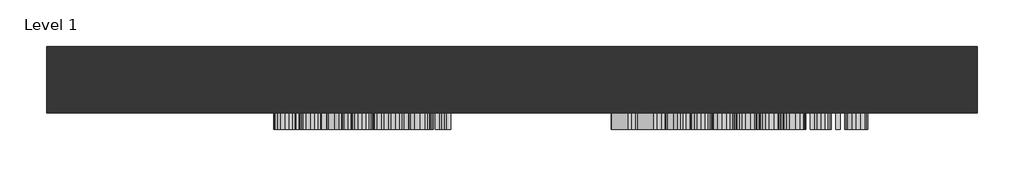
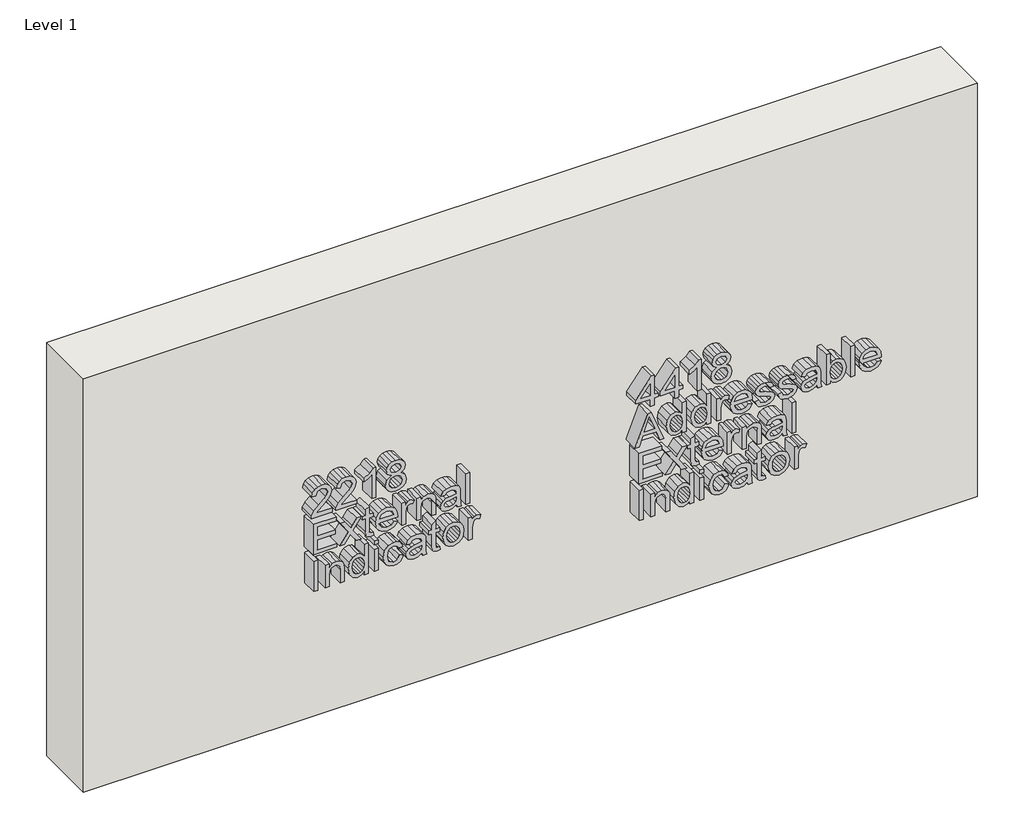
# One storey: 2 proxies, 1 wall.
"""IFC4 building model written with IfcOpenShell, lengths in millimetres."""

from ifc_helpers import new_model, si_unit, frame, origin, origin_with_axes, place, context, project, spatial, polyline, outline, extrude, element, save

model = new_model("IFC4")

# Units and contexts
model_context = context("Model", 3, world=origin())
ifc_project = project(units=[si_unit("LENGTHUNIT", "METRE", prefix="MILLI")], contexts=[model_context])

# Site, building, storey
site = spatial("IfcSite", under=ifc_project)
building = spatial("IfcBuilding", under=site)
storey = spatial("IfcBuildingStorey", under=building, Name="Level 1", Elevation=0.0)

# Proxies
placement = place(None, origin())
element("IfcBuildingElementProxy", 1, Name="150 mm Arial", ObjectType="150 mm Arial", at=placement, inside=storey, context=model_context, shape_type="SweptSolid", body=[
    extrude(outline(polyline([(710.2963304, -3772.746973), (710.2963304, -3822.0676858), (716.6852144, -3816.4023031), (728.7640066, -3801.9568034), (745.9686212, -3783.9673738), (758.2804053, -3776.5484203), (770.1875192, -3774.3166028), (781.13814, -3776.3859391), (790.1512488, -3782.5939477), (796.1845136, -3792.3520176), (798.1956018, -3805.0715376), (796.3868487, -3817.6990871), (790.9605892, -3827.4755511), (782.0885018, -3834.0575732), (769.9422646, -3837.1017967), (768.3726347, -3824.5447579), (781.0523008, -3819.2595199), (785.638563, -3805.3413178), (780.9419362, -3791.9872013), (769.4272298, -3786.8736416), (755.2024593, -3792.2937697), (734.2822365, -3813.9742819), (719.7263722, -3829.6951058), (706.3967813, -3837.3225259), (697.7392917, -3838.6714265), (697.7392917, -3772.746973), (710.2963304, -3772.746973)])), frame((0.0, 3097.8550077, 0.0), z_axis=(0.0, 1.0, 0.0), x_axis=(0.0, 0.0, 1.0)), (0.0, 0.0, 1.0), 50.0),
    extrude(outline(polyline([(710.2963304, -3695.8351105), (710.2963304, -3745.1558233), (716.6852144, -3739.4904406), (728.7640066, -3725.0449409), (745.9686212, -3707.0555114), (758.2804053, -3699.6365578), (770.1875192, -3697.4047404), (781.13814, -3699.4740766), (790.1512488, -3705.6820853), (796.1845136, -3715.4401552), (798.1956018, -3728.1596752), (796.3868487, -3740.7872247), (790.9605892, -3750.5636887), (782.0885018, -3757.1457107), (769.9422646, -3760.1899342), (768.3726347, -3747.6328954), (781.0523008, -3742.3476574), (785.638563, -3728.4294553), (780.9419362, -3715.0753389), (769.4272298, -3709.9617791), (755.2024593, -3715.3819072), (734.2822365, -3737.0624195), (719.7263722, -3752.7832434), (706.3967813, -3760.4106634), (697.7392917, -3761.7595641), (697.7392917, -3695.8351105), (710.2963304, -3695.8351105)])), frame((0.0, 3097.8550077, 0.0), z_axis=(0.0, 1.0, 0.0), x_axis=(0.0, 0.0, 1.0)), (0.0, 0.0, 1.0), 50.0),
    extrude(outline(polyline([(697.7392917, -3636.1891764), (798.1956018, -3636.1891764), (798.1956018, -3644.2825803), (784.8292226, -3655.4539302), (773.0815243, -3673.8602927), (761.2111986, -3673.8602927), (767.5510316, -3660.6410663), (776.0245802, -3648.7462151), (697.7392917, -3648.7462151), (697.7392917, -3636.1891764)])), frame((0.0, 3097.8550077, 0.0), z_axis=(0.0, 1.0, 0.0), x_axis=(0.0, 0.0, 1.0)), (0.0, 0.0, 1.0), 50.0),
    extrude(outline(polyline([(753.0687437, -3588.0702114), (743.9452702, -3601.6082688), (727.3170041, -3606.3662093), (715.1002561, -3604.0976037), (705.0846688, -3597.2917868), (698.3984136, -3586.7826244), (696.1696618, -3573.4039825), (698.3892165, -3560.0253406), (705.0478806, -3549.5161783), (714.9684318, -3542.7103614), (726.9736475, -3540.4417558), (743.221769, -3545.0157552), (753.0687437, -3558.3698717), (760.8310538, -3547.2475727), (772.6645913, -3543.5810155), (782.5238288, -3545.6411546), (790.7643855, -3551.8215721), (796.3377977, -3561.3803727), (798.1956018, -3573.5756608), (796.3807173, -3585.6973725), (790.9360638, -3595.1335457), (782.8242658, -3601.2035986), (773.0079479, -3603.2269496), (760.867842, -3599.5113415), (753.0687437, -3588.0702114)]), holes=[polyline([(772.6400659, -3590.6699108), (781.8125903, -3586.1449623), (785.638563, -3573.4039825), (781.7267512, -3560.699791), (772.0759801, -3556.1380542), (762.7563029, -3560.5526382), (758.9548557, -3573.2568297), (762.7808284, -3586.2185387), (772.6400659, -3590.6699108)]), polyline([(727.7584625, -3593.8091705), (741.0757907, -3588.4994071), (745.0673103, -3582.150377), (746.3978169, -3573.7228136), (745.0489162, -3565.0775867), (741.0022143, -3558.5170245), (727.366055, -3552.9987945), (713.9874131, -3558.3453462), (710.0418787, -3564.7587556), (708.7267006, -3573.3058807), (711.2282981, -3584.2932896), (718.3038952, -3591.7122432), (727.7584625, -3593.8091705)])]), frame((0.0, 3097.8550077, 0.0), z_axis=(0.0, 1.0, 0.0), x_axis=(0.0, 0.0, 1.0)), (0.0, 0.0, 1.0), 50.0),
    extrude(outline(polyline([(575.7644738, -3832.3929071), (575.7644738, -3758.6203044), (588.3215126, -3758.6203044), (588.3215126, -3819.8358684), (621.2837393, -3819.8358684), (621.2837393, -3763.3291939), (633.8407781, -3763.3291939), (633.8407781, -3819.8358684), (663.6637452, -3819.8358684), (663.6637452, -3760.1899342), (676.220784, -3760.1899342), (676.220784, -3832.3929071), (575.7644738, -3832.3929071)])), frame((0.0, 3097.8550077, 0.0), z_axis=(0.0, 1.0, 0.0), x_axis=(0.0, 0.0, 1.0)), (0.0, 0.0, 1.0), 50.0),
    extrude(outline(polyline([(575.7644738, -3749.2025253), (575.7644738, -3734.094838), (602.1293501, -3715.0140252), (598.0581227, -3712.1935966), (575.7644738, -3696.8161292), (575.7644738, -3681.7084419), (612.8469789, -3707.2639778), (649.5370766, -3680.7274233), (649.5370766, -3695.8351105), (630.3581619, -3709.7165245), (623.5400822, -3714.6461432), (631.8787408, -3720.3360514), (649.5370766, -3732.5252082), (649.5370766, -3747.6328954), (612.8469789, -3722.3716651), (575.7644738, -3749.2025253)])), frame((0.0, 3097.8550077, 0.0), z_axis=(0.0, 1.0, 0.0), x_axis=(0.0, 0.0, 1.0)), (0.0, 0.0, 1.0), 50.0),
    extrude(outline(polyline([(586.2368479, -3644.0373256), (586.7518827, -3649.5065046), (587.5980113, -3653.7861985), (589.8911424, -3655.9321768), (596.3658655, -3656.5943644), (636.9800378, -3656.5943644), (636.9800378, -3644.0373256), (649.5370766, -3644.0373256), (649.5370766, -3656.5943644), (674.8473578, -3656.5943644), (667.4651925, -3669.1514031), (649.5370766, -3669.1514031), (649.5370766, -3678.5691822), (636.9800378, -3678.5691822), (636.9800378, -3669.1514031), (595.9979835, -3669.1514031), (581.7486876, -3667.6308242), (576.2795086, -3662.3823744), (574.194844, -3651.8609494), (575.3965918, -3642.4676958), (586.2368479, -3644.0373256)])), frame((0.0, 3097.8550077, 0.0), z_axis=(0.0, 1.0, 0.0), x_axis=(0.0, 0.0, 1.0)), (0.0, 0.0, 1.0), 50.0),
    extrude(outline(polyline([(597.7392917, -3579.8296547), (589.3761076, -3587.9230586), (586.7518827, -3600.2348427), (588.1682284, -3609.1222586), (592.4172655, -3616.4093878), (599.3273156, -3621.4585682), (608.7267006, -3623.6321376), (608.7267006, -3567.1990395), (612.1112149, -3567.1254631), (628.5739342, -3569.5074991), (640.879587, -3576.6536068), (648.5499266, -3587.5521109), (651.1067064, -3601.1913359), (648.5437952, -3615.2689536), (640.8550615, -3626.4525662), (628.5248833, -3633.7550238), (612.0376385, -3636.1891764), (596.0868884, -3633.7795493), (584.1399206, -3626.5506681), (576.6811131, -3615.2137713), (574.194844, -3600.4800974), (575.6357151, -3588.5944432), (579.9583286, -3579.0325771), (586.8929042, -3571.9539143), (596.1696618, -3567.5178706), (597.7392917, -3579.8296547)]), holes=[polyline([(621.2837393, -3623.6321376), (628.3624021, -3621.5689328), (633.8530408, -3616.7036934), (638.5496677, -3601.2403868), (637.0781397, -3592.0310742), (632.6635557, -3584.7102225), (621.2837393, -3579.6825019), (621.2837393, -3623.6321376)])]), frame((0.0, 3097.8550077, 0.0), z_axis=(0.0, 1.0, 0.0), x_axis=(0.0, 0.0, 1.0)), (0.0, 0.0, 1.0), 50.0),
    extrude(outline(polyline([(575.7644738, -3554.5684244), (575.7644738, -3542.0113856), (614.5392361, -3542.0113856), (629.205465, -3539.9757719), (636.0725956, -3535.4508234), (638.5496677, -3528.3507009), (635.9744937, -3519.521533), (647.2316827, -3515.3276782), (651.1067064, -3527.9337679), (648.6786853, -3535.7819172), (638.6232441, -3543.5810155), (649.5370766, -3543.5810155), (649.5370766, -3554.5684244), (575.7644738, -3554.5684244)])), frame((0.0, 3097.8550077, 0.0), z_axis=(0.0, 1.0, 0.0), x_axis=(0.0, 0.0, 1.0)), (0.0, 0.0, 1.0), 50.0),
    extrude(outline(polyline([(575.7644738, -3507.479529), (575.7644738, -3494.9224902), (614.9071181, -3494.9224902), (626.4770068, -3493.4908161), (633.6200489, -3489.1957938), (638.5496677, -3475.5718973), (636.3546384, -3466.9511959), (630.4807892, -3461.8376361), (619.370753, -3460.3906336), (575.7644738, -3460.3906336), (575.7644738, -3447.8335948), (621.0630101, -3447.8335948), (633.203116, -3448.4957824), (642.4369541, -3452.2604415), (648.7154735, -3460.3538454), (651.1067064, -3472.2119084), (648.139125, -3485.3207702), (639.2363807, -3494.9224902), (649.5370766, -3494.9224902), (649.5370766, -3507.479529), (575.7644738, -3507.479529)])), frame((0.0, 3097.8550077, 0.0), z_axis=(0.0, 1.0, 0.0), x_axis=(0.0, 0.0, 1.0)), (0.0, 0.0, 1.0), 50.0),
    extrude(outline(polyline([(585.1822529, -3383.4787712), (575.7644738, -3380.3395115), (575.7644738, -3367.7824727), (586.3226871, -3370.2840703), (608.1380894, -3370.9217324), (623.7608114, -3370.9217324), (634.7482204, -3371.534869), (643.2708199, -3375.3853673), (648.874889, -3383.9815432), (651.1067064, -3399.1995951), (648.5805834, -3415.7665476), (641.3946217, -3426.7049056), (629.1318886, -3432.1372964), (627.5622587, -3419.5802576), (636.1339092, -3413.5224674), (638.5496677, -3400.8182759), (634.9198986, -3386.9368619), (625.6492724, -3383.4787712), (622.8533692, -3383.5523476), (618.5368871, -3405.3309617), (616.6484262, -3416.1957433), (612.5281479, -3424.9881229), (605.3176608, -3431.3034305), (595.3848469, -3433.7069262), (586.9419551, -3432.1158366), (580.1545323, -3427.3425677), (575.684766, -3419.6017174), (574.194844, -3409.1078835), (576.6719161, -3395.6556652), (585.1822529, -3383.4787712)]), holes=[polyline([(610.2963304, -3383.4787712), (606.7401378, -3383.5523476), (597.0280531, -3385.5389103), (589.7562524, -3393.7304161), (586.7518827, -3406.4346077), (589.4742095, -3417.4097538), (596.2677637, -3421.1498875), (601.0992805, -3419.4331048), (604.4102185, -3414.5402743), (606.4458322, -3403.7368064), (610.2963304, -3383.4787712)])]), frame((0.0, 3097.8550077, 0.0), z_axis=(0.0, 1.0, 0.0), x_axis=(0.0, 0.0, 1.0)), (0.0, 0.0, 1.0), 50.0),
    extrude(outline(polyline([(-3341.0987653, 3097.8550077), (-3353.6558041, 3097.8550077), (-3353.6558041, 3147.8550077), (-3341.0987653, 3147.8550077), (-3341.0987653, 3097.8550077)])), frame((0.0, 0.0, 575.7644738), z_axis=(0.0, 0.0, 1.0), x_axis=(1.0, 0.0, 0.0)), (0.0, 0.0, 1.0), 100.4563101),
    extrude(outline(polyline([(-3818.2662385, 3097.8550077), (-3830.8232773, 3097.8550077), (-3830.8232773, 3147.8550077), (-3818.2662385, 3147.8550077), (-3818.2662385, 3097.8550077)])), frame((0.0, 0.0, 453.789656), z_axis=(0.0, 0.0, 1.0), x_axis=(1.0, 0.0, 0.0)), (0.0, 0.0, 1.0), 100.4563101),
    extrude(outline(polyline([(453.789656, -3794.7217908), (453.789656, -3782.1647521), (492.9323002, -3782.1647521), (504.502189, -3780.733078), (511.6452311, -3776.4380557), (516.5748498, -3762.8141591), (514.3798206, -3754.1934577), (508.5059714, -3749.079898), (497.3959351, -3747.6328954), (453.789656, -3747.6328954), (453.789656, -3735.0758567), (499.0881923, -3735.0758567), (511.2282981, -3735.7380443), (520.4621362, -3739.5027034), (526.7406556, -3747.5961072), (529.1318886, -3759.4541702), (526.1643071, -3772.563032), (517.2615629, -3782.1647521), (527.5622587, -3782.1647521), (527.5622587, -3794.7217908), (453.789656, -3794.7217908)])), frame((0.0, 3097.8550077, 0.0), z_axis=(0.0, 1.0, 0.0), x_axis=(0.0, 0.0, 1.0)), (0.0, 0.0, 1.0), 50.0),
    extrude(outline(polyline([(453.789656, -3672.2906628), (453.789656, -3659.7336241), (554.2459661, -3659.7336241), (554.2459661, -3672.2906628), (516.8201045, -3672.2906628), (525.710586, -3680.555745), (529.1318886, -3692.1317651), (524.3494226, -3708.1591574), (510.590636, -3718.9258371), (490.6023809, -3722.5188179), (470.6263886, -3718.6192688), (457.0760685, -3707.6318598), (452.2200261, -3692.0827142), (455.5738836, -3680.5986646), (465.6354562, -3672.2906628), (453.789656, -3672.2906628)]), holes=[polyline([(490.6514319, -3709.9617791), (502.2918313, -3708.637404), (510.3331186, -3704.6642784), (515.014417, -3698.7107215), (516.5748498, -3691.4450521), (514.9500377, -3683.992376), (510.0756012, -3677.8211555), (501.7308113, -3673.673286), (489.6949387, -3672.2906628), (478.68607, -3673.6487605), (470.9206942, -3677.7230536), (466.3129722, -3683.7409899), (464.7770649, -3690.9300173), (466.3865486, -3698.1221103), (471.2149998, -3704.2963964), (479.2930753, -3708.5454335), (490.6514319, -3709.9617791)])]), frame((0.0, 3097.8550077, 0.0), z_axis=(0.0, 1.0, 0.0), x_axis=(0.0, 0.0, 1.0)), (0.0, 0.0, 1.0), 50.0),
    extrude(outline(polyline([(-3628.3410271, 3097.8550077), (-3640.8980659, 3097.8550077), (-3640.8980659, 3147.8550077), (-3628.3410271, 3147.8550077), (-3628.3410271, 3097.8550077)])), frame((0.0, 0.0, 541.6889273), z_axis=(0.0, 0.0, 1.0), x_axis=(1.0, 0.0, 0.0)), (0.0, 0.0, 1.0), 12.5570388),
    extrude(outline(polyline([(-3628.3410271, 3097.8550077), (-3640.8980659, 3097.8550077), (-3640.8980659, 3147.8550077), (-3628.3410271, 3147.8550077), (-3628.3410271, 3097.8550077)])), frame((0.0, 0.0, 453.789656), z_axis=(0.0, 0.0, 1.0), x_axis=(1.0, 0.0, 0.0)), (0.0, 0.0, 1.0), 73.7726028),
    extrude(outline(polyline([(480.4733633, -3562.4165736), (468.6275631, -3568.4375756), (464.7770649, -3580.2711131), (466.3191036, -3588.2817436), (470.9452197, -3594.6062482), (478.9803756, -3598.7173295), (490.7495337, -3600.0876899), (502.3623421, -3598.6866727), (510.3699068, -3594.4836209), (515.0236141, -3588.0426203), (516.5748498, -3579.9277566), (513.4233274, -3569.8110017), (504.017811, -3563.9862035), (505.5874409, -3551.4291647), (515.5815684, -3554.8474016), (523.000522, -3560.9327829), (527.5990469, -3569.4155286), (529.1318886, -3580.0258584), (524.6682537, -3597.1078458), (511.2650863, -3608.8064932), (490.4061772, -3612.6447287), (474.1059391, -3610.3975828), (462.0915263, -3603.6561453), (454.6879012, -3593.2113623), (452.2200261, -3579.8541802), (453.9889254, -3568.9771359), (459.2956232, -3559.9395015), (467.7354493, -3553.3605452), (478.9037335, -3549.8595348), (480.4733633, -3562.4165736)])), frame((0.0, 3097.8550077, 0.0), z_axis=(0.0, 1.0, 0.0), x_axis=(0.0, 0.0, 1.0)), (0.0, 0.0, 1.0), 50.0),
    extrude(outline(polyline([(463.207435, -3491.7832305), (453.789656, -3488.6439708), (453.789656, -3476.0869321), (464.3478692, -3478.5885296), (486.1632715, -3479.2261918), (501.7859936, -3479.2261918), (512.7734025, -3479.8393284), (521.2960021, -3483.6898266), (526.9000711, -3492.2860026), (529.1318886, -3507.5040545), (526.6057655, -3524.071007), (519.4198039, -3535.009365), (507.1570707, -3540.4417558), (505.5874409, -3527.884717), (514.1590914, -3521.8269268), (516.5748498, -3509.1227352), (512.9450808, -3495.2413213), (503.6744545, -3491.7832305), (500.8785513, -3491.8568069), (496.5620693, -3513.635421), (494.6736084, -3524.5002026), (490.55333, -3533.2925823), (483.3428429, -3539.6078899), (473.410029, -3542.0113856), (464.9671372, -3540.420296), (458.1797144, -3535.6470271), (453.7099482, -3527.9061768), (452.2200261, -3517.4123429), (454.6970982, -3503.9601246), (463.207435, -3491.7832305)]), holes=[polyline([(488.3215126, -3491.7832305), (484.76532, -3491.8568069), (475.0532353, -3493.8433697), (467.7814345, -3502.0348755), (464.7770649, -3514.739067), (467.4993916, -3525.7142132), (474.2929458, -3529.4543468), (479.1244627, -3527.7375642), (482.4354007, -3522.8447337), (484.4710144, -3512.0412657), (488.3215126, -3491.7832305)])]), frame((0.0, 3097.8550077, 0.0), z_axis=(0.0, 1.0, 0.0), x_axis=(0.0, 0.0, 1.0)), (0.0, 0.0, 1.0), 50.0),
    extrude(outline(polyline([(464.2620301, -3435.2765561), (464.7770649, -3440.7457351), (465.6231935, -3445.0254289), (467.9163246, -3447.1714073), (474.3910477, -3447.8335948), (515.00522, -3447.8335948), (515.00522, -3435.2765561), (527.5622587, -3435.2765561), (527.5622587, -3447.8335948), (552.87254, -3447.8335948), (545.4903746, -3460.3906336), (527.5622587, -3460.3906336), (527.5622587, -3469.8084127), (515.00522, -3469.8084127), (515.00522, -3460.3906336), (474.0231657, -3460.3906336), (459.7738698, -3458.8700547), (454.3046908, -3453.6216049), (452.2200261, -3443.1001798), (453.421774, -3433.7069262), (464.2620301, -3435.2765561)])), frame((0.0, 3097.8550077, 0.0), z_axis=(0.0, 1.0, 0.0), x_axis=(0.0, 0.0, 1.0)), (0.0, 0.0, 1.0), 50.0),
    extrude(outline(polyline([(490.6759573, -3425.858777), (474.2193694, -3423.5809743), (462.1283145, -3416.7475663), (454.6970982, -3406.2230755), (452.2200261, -3392.8720248), (456.7204492, -3375.8636139), (469.3633271, -3364.0055509), (491.7060269, -3359.9343235), (507.3440774, -3362.2366516), (519.186812, -3369.1436361), (526.6456194, -3379.6803896), (529.1318886, -3392.8720248), (527.0901435, -3404.9262915), (520.9649083, -3414.9939954), (508.4630518, -3423.1425816), (490.6759573, -3425.858777)]), holes=[polyline([(490.7004828, -3413.3017382), (502.0588394, -3411.8486043), (510.1369149, -3407.4892027), (514.9653661, -3400.9286405), (516.5748498, -3392.8720248), (514.9592347, -3384.8981825), (510.1123894, -3378.340686), (502.1262844, -3373.9536932), (491.0928903, -3372.4913622), (479.480082, -3373.9444961), (471.2763135, -3378.3038978), (466.401877, -3384.8521973), (464.7770649, -3392.8720248), (466.39268, -3400.9286405), (471.2395253, -3407.4892027), (479.3359948, -3411.8486043), (490.7004828, -3413.3017382)])]), frame((0.0, 3097.8550077, 0.0), z_axis=(0.0, 1.0, 0.0), x_axis=(0.0, 0.0, 1.0)), (0.0, 0.0, 1.0), 50.0),
    extrude(outline(polyline([(453.789656, -3345.8076548), (453.789656, -3333.2506161), (492.5644183, -3333.2506161), (507.2306471, -3331.2150024), (514.0977777, -3326.6900538), (516.5748498, -3319.5899313), (513.9996758, -3310.7607634), (525.2568649, -3306.5669087), (529.1318886, -3319.1729984), (526.7038674, -3327.0211476), (516.6484262, -3334.8202459), (527.5622587, -3334.8202459), (527.5622587, -3345.8076548), (453.789656, -3345.8076548)])), frame((0.0, 3097.8550077, 0.0), z_axis=(0.0, 1.0, 0.0), x_axis=(0.0, 0.0, 1.0)), (0.0, 0.0, 1.0), 50.0),
])
element("IfcBuildingElementProxy", 2, Name="150 mm Arial", ObjectType="150 mm Arial", at=placement, inside=storey, context=model_context, shape_type="SweptSolid", body=[
    extrude(outline(polyline([(697.7392917, -2776.2914207), (697.7392917, -2763.7343819), (721.2837393, -2763.7343819), (721.2837393, -2751.1773431), (733.8407781, -2751.1773431), (733.8407781, -2763.7343819), (796.625972, -2763.7343819), (796.625972, -2773.152161), (733.8407781, -2821.8106862), (721.2837393, -2821.8106862), (721.2837393, -2776.2914207), (697.7392917, -2776.2914207)]), holes=[polyline([(733.8407781, -2776.2914207), (733.8407781, -2806.3596424), (772.6400659, -2776.2914207), (733.8407781, -2776.2914207)])]), frame((0.0, 3097.8550077, 0.0), z_axis=(0.0, 1.0, 0.0), x_axis=(0.0, 0.0, 1.0)), (0.0, 0.0, 1.0), 50.0),
    extrude(outline(polyline([(697.7392917, -2699.3795582), (697.7392917, -2686.8225194), (721.2837393, -2686.8225194), (721.2837393, -2674.2654807), (733.8407781, -2674.2654807), (733.8407781, -2686.8225194), (796.625972, -2686.8225194), (796.625972, -2696.2402985), (733.8407781, -2744.8988238), (721.2837393, -2744.8988238), (721.2837393, -2699.3795582), (697.7392917, -2699.3795582)]), holes=[polyline([(733.8407781, -2699.3795582), (733.8407781, -2729.44778), (772.6400659, -2699.3795582), (733.8407781, -2699.3795582)])]), frame((0.0, 3097.8550077, 0.0), z_axis=(0.0, 1.0, 0.0), x_axis=(0.0, 0.0, 1.0)), (0.0, 0.0, 1.0), 50.0),
    extrude(outline(polyline([(697.7392917, -2616.1891764), (798.1956018, -2616.1891764), (798.1956018, -2624.2825803), (784.8292226, -2635.4539302), (773.0815243, -2653.8602927), (761.2111986, -2653.8602927), (767.5510316, -2640.6410663), (776.0245802, -2628.7462151), (697.7392917, -2628.7462151), (697.7392917, -2616.1891764)])), frame((0.0, 3097.8550077, 0.0), z_axis=(0.0, 1.0, 0.0), x_axis=(0.0, 0.0, 1.0)), (0.0, 0.0, 1.0), 50.0),
    extrude(outline(polyline([(753.0687437, -2568.0702114), (743.9452702, -2581.6082688), (727.3170041, -2586.3662093), (715.1002561, -2584.0976037), (705.0846688, -2577.2917868), (698.3984136, -2566.7826244), (696.1696618, -2553.4039825), (698.3892165, -2540.0253406), (705.0478806, -2529.5161783), (714.9684318, -2522.7103614), (726.9736475, -2520.4417558), (743.221769, -2525.0157552), (753.0687437, -2538.3698717), (760.8310538, -2527.2475727), (772.6645913, -2523.5810155), (782.5238288, -2525.6411546), (790.7643855, -2531.8215721), (796.3377977, -2541.3803727), (798.1956018, -2553.5756608), (796.3807173, -2565.6973725), (790.9360638, -2575.1335457), (782.8242658, -2581.2035986), (773.0079479, -2583.2269496), (760.867842, -2579.5113415), (753.0687437, -2568.0702114)]), holes=[polyline([(727.7584625, -2573.8091705), (741.0757907, -2568.4994071), (745.0673103, -2562.150377), (746.3978169, -2553.7228136), (745.0489162, -2545.0775867), (741.0022143, -2538.5170245), (727.366055, -2532.9987945), (713.9874131, -2538.3453462), (710.0418787, -2544.7587556), (708.7267006, -2553.3058807), (711.2282981, -2564.2932896), (718.3038952, -2571.7122432), (727.7584625, -2573.8091705)]), polyline([(772.6400659, -2570.6699108), (781.8125903, -2566.1449623), (785.638563, -2553.4039825), (781.7267512, -2540.699791), (772.0759801, -2536.1380542), (762.7563029, -2540.5526382), (758.9548557, -2553.2568297), (762.7808284, -2566.2185387), (772.6400659, -2570.6699108)])]), frame((0.0, 3097.8550077, 0.0), z_axis=(0.0, 1.0, 0.0), x_axis=(0.0, 0.0, 1.0)), (0.0, 0.0, 1.0), 50.0),
    extrude(outline(polyline([(575.7644738, -2824.0915546), (575.7644738, -2810.8232773), (607.1570707, -2799.345359), (607.1570707, -2757.9708973), (575.7644738, -2746.4684536), (575.7644738, -2733.2001763), (676.220784, -2773.2993138), (676.220784, -2783.9924171), (575.7644738, -2824.0915546)]), holes=[polyline([(619.7141095, -2794.7345714), (646.5694951, -2784.8998594), (663.6637452, -2778.6458654), (644.4112541, -2771.6070566), (619.7141095, -2762.5571595), (619.7141095, -2794.7345714)])]), frame((0.0, 3097.8550077, 0.0), z_axis=(0.0, 1.0, 0.0), x_axis=(0.0, 0.0, 1.0)), (0.0, 0.0, 1.0), 50.0),
    extrude(outline(polyline([(575.7644738, -2675.8351105), (575.7644738, -2663.2780718), (676.220784, -2663.2780718), (676.220784, -2675.8351105), (638.7949223, -2675.8351105), (647.6854039, -2684.1001927), (651.1067064, -2695.6762128), (646.3242405, -2711.7036051), (632.5654539, -2722.4702848), (612.5771988, -2726.0632656), (592.6012065, -2722.1637165), (579.0508863, -2711.1763075), (574.194844, -2695.6271619), (577.5487015, -2684.1431123), (587.6102741, -2675.8351105), (575.7644738, -2675.8351105)]), holes=[polyline([(612.6262497, -2713.5062268), (624.2666492, -2712.1818516), (632.3079365, -2708.2087261), (636.9892349, -2702.2551691), (638.5496677, -2694.9894997), (636.9248555, -2687.5368237), (632.0504191, -2681.3656032), (623.7056291, -2677.2177337), (611.6697565, -2675.8351105), (600.6608878, -2677.1932082), (592.895512, -2681.2675013), (588.2877901, -2687.2854376), (586.7518827, -2694.4744649), (588.3613665, -2701.666558), (593.1898176, -2707.8408441), (601.2678931, -2712.0898812), (612.6262497, -2713.5062268)])]), frame((0.0, 3097.8550077, 0.0), z_axis=(0.0, 1.0, 0.0), x_axis=(0.0, 0.0, 1.0)), (0.0, 0.0, 1.0), 50.0),
    extrude(outline(polyline([(575.7644738, -2598.9232481), (575.7644738, -2586.3662093), (676.220784, -2586.3662093), (676.220784, -2598.9232481), (638.7949223, -2598.9232481), (647.6854039, -2607.1883302), (651.1067064, -2618.7643503), (646.3242405, -2634.7917426), (632.5654539, -2645.5584223), (612.5771988, -2649.1514031), (592.6012065, -2645.251854), (579.0508863, -2634.2644451), (574.194844, -2618.7152994), (577.5487015, -2607.2312498), (587.6102741, -2598.9232481), (575.7644738, -2598.9232481)]), holes=[polyline([(612.6262497, -2636.5943644), (624.2666492, -2635.2699892), (632.3079365, -2631.2968636), (636.9892349, -2625.3433067), (638.5496677, -2618.0776373), (636.9248555, -2610.6249612), (632.0504191, -2604.4537407), (623.7056291, -2600.3058712), (611.6697565, -2598.9232481), (600.6608878, -2600.2813458), (592.895512, -2604.3556389), (588.2877901, -2610.3735752), (586.7518827, -2617.5626025), (588.3613665, -2624.7546955), (593.1898176, -2630.9289816), (601.2678931, -2635.1780187), (612.6262497, -2636.5943644)])]), frame((0.0, 3097.8550077, 0.0), z_axis=(0.0, 1.0, 0.0), x_axis=(0.0, 0.0, 1.0)), (0.0, 0.0, 1.0), 50.0),
    extrude(outline(polyline([(575.7644738, -2567.5306511), (575.7644738, -2554.9736124), (614.5392361, -2554.9736124), (629.205465, -2552.9379987), (636.0725956, -2548.4130501), (638.5496677, -2541.3129276), (635.9744937, -2532.4837597), (647.2316827, -2528.289905), (651.1067064, -2540.8959947), (648.6786853, -2548.7441439), (638.6232441, -2556.5432422), (649.5370766, -2556.5432422), (649.5370766, -2567.5306511), (575.7644738, -2567.5306511)])), frame((0.0, 3097.8550077, 0.0), z_axis=(0.0, 1.0, 0.0), x_axis=(0.0, 0.0, 1.0)), (0.0, 0.0, 1.0), 50.0),
    extrude(outline(polyline([(597.7392917, -2468.7911236), (589.3761076, -2476.8845275), (586.7518827, -2489.1963116), (588.1682284, -2498.0837275), (592.4172655, -2505.3708567), (599.3273156, -2510.4200371), (608.7267006, -2512.5936065), (608.7267006, -2456.1605085), (612.1112149, -2456.0869321), (628.5739342, -2458.468968), (640.879587, -2465.6150757), (648.5499266, -2476.5135799), (651.1067064, -2490.1528048), (648.5437952, -2504.2304225), (640.8550615, -2515.4140352), (628.5248833, -2522.7164928), (612.0376385, -2525.1506453), (596.0868884, -2522.7410182), (584.1399206, -2515.512137), (576.6811131, -2504.1752402), (574.194844, -2489.4415663), (575.6357151, -2477.5559122), (579.9583286, -2467.994046), (586.8929042, -2460.9153833), (596.1696618, -2456.4793395), (597.7392917, -2468.7911236)]), holes=[polyline([(621.2837393, -2512.5936065), (628.3624021, -2510.5304017), (633.8530408, -2505.6651623), (638.5496677, -2490.2018558), (637.0781397, -2480.9925431), (632.6635557, -2473.6716914), (621.2837393, -2468.6439708), (621.2837393, -2512.5936065)])]), frame((0.0, 3097.8550077, 0.0), z_axis=(0.0, 1.0, 0.0), x_axis=(0.0, 0.0, 1.0)), (0.0, 0.0, 1.0), 50.0),
    extrude(outline(polyline([(597.7392917, -2448.2387828), (587.4999095, -2444.7929548), (580.1300068, -2438.6248), (575.6786347, -2429.3848306), (574.194844, -2416.7235586), (577.27279, -2401.1744129), (585.9915933, -2390.6652506), (598.0090718, -2387.0232188), (608.9229043, -2390.1256903), (615.6183566, -2398.6850781), (621.528994, -2417.1159661), (624.2022698, -2427.9316967), (626.9736475, -2432.6160608), (630.627942, -2434.1121142), (636.1706974, -2430.5068707), (638.5496677, -2418.4893922), (636.0603328, -2407.4406696), (629.1318886, -2402.7195173), (630.7015184, -2390.1624785), (641.9709702, -2394.4789606), (648.6418971, -2404.1910453), (651.1067064, -2419.4704108), (649.5738648, -2430.2738787), (645.8582566, -2438.256918), (638.7090832, -2444.4128101), (629.3526178, -2446.669153), (619.2236002, -2443.8609871), (612.0499013, -2435.6081677), (605.9062719, -2416.6990331), (602.3255539, -2403.7741124), (596.6846966, -2399.5802576), (589.7194642, -2403.7495869), (586.7518827, -2416.5518803), (589.9892443, -2429.8692086), (599.3089215, -2435.6817441), (597.7392917, -2448.2387828)])), frame((0.0, 3097.8550077, 0.0), z_axis=(0.0, 1.0, 0.0), x_axis=(0.0, 0.0, 1.0)), (0.0, 0.0, 1.0), 50.0),
    extrude(outline(polyline([(597.7392917, -2377.6054398), (587.4999095, -2374.1596117), (580.1300068, -2367.991457), (575.6786347, -2358.7514875), (574.194844, -2346.0902155), (577.27279, -2330.5410699), (585.9915933, -2320.0319075), (598.0090718, -2316.3898758), (608.9229043, -2319.4923473), (615.6183566, -2328.051735), (621.528994, -2346.482623), (624.2022698, -2357.2983536), (626.9736475, -2361.9827177), (630.627942, -2363.4787712), (636.1706974, -2359.8735276), (638.5496677, -2347.8560491), (636.0603328, -2336.8073265), (629.1318886, -2332.0861742), (630.7015184, -2319.5291355), (641.9709702, -2323.8456175), (648.6418971, -2333.5577022), (651.1067064, -2348.8370677), (649.5738648, -2359.6405357), (645.8582566, -2367.623575), (638.7090832, -2373.779467), (629.3526178, -2376.0358099), (619.2236002, -2373.227644), (612.0499013, -2364.9748246), (605.9062719, -2346.06569), (602.3255539, -2333.1407693), (596.6846966, -2328.9469145), (589.7194642, -2333.1162438), (586.7518827, -2345.9185373), (589.9892443, -2359.2358655), (599.3089215, -2365.048401), (597.7392917, -2377.6054398)])), frame((0.0, 3097.8550077, 0.0), z_axis=(0.0, 1.0, 0.0), x_axis=(0.0, 0.0, 1.0)), (0.0, 0.0, 1.0), 50.0),
    extrude(outline(polyline([(585.1822529, -2255.1743118), (575.7644738, -2252.0350521), (575.7644738, -2239.4780133), (586.3226871, -2241.9796109), (608.1380894, -2242.617273), (623.7608114, -2242.617273), (634.7482204, -2243.2304097), (643.2708199, -2247.0809079), (648.874889, -2255.6770838), (651.1067064, -2270.8951357), (648.5805834, -2287.4620882), (641.3946217, -2298.4004462), (629.1318886, -2303.832837), (627.5622587, -2291.2757982), (636.1339092, -2285.218008), (638.5496677, -2272.5138165), (634.9198986, -2258.6324025), (625.6492724, -2255.1743118), (622.8533692, -2255.2478882), (618.5368871, -2277.0265023), (616.6484262, -2287.8912839), (612.5281479, -2296.6836636), (605.3176608, -2302.9989711), (595.3848469, -2305.4024668), (586.9419551, -2303.8113772), (580.1545323, -2299.0381083), (575.684766, -2291.297258), (574.194844, -2280.8034241), (576.6719161, -2267.3512058), (585.1822529, -2255.1743118)]), holes=[polyline([(610.2963304, -2255.1743118), (606.7401378, -2255.2478882), (597.0280531, -2257.2344509), (589.7562524, -2265.4259567), (586.7518827, -2278.1301483), (589.4742095, -2289.1052945), (596.2677637, -2292.8454281), (601.0992805, -2291.1286454), (604.4102185, -2286.2358149), (606.4458322, -2275.432347), (610.2963304, -2255.1743118)])]), frame((0.0, 3097.8550077, 0.0), z_axis=(0.0, 1.0, 0.0), x_axis=(0.0, 0.0, 1.0)), (0.0, 0.0, 1.0), 50.0),
    extrude(outline(polyline([(575.7644738, -2212.7943059), (587.5121722, -2212.7943059), (577.524176, -2204.3146259), (574.194844, -2193.1494074), (576.7761493, -2181.4476943), (584.5200653, -2171.5547343), (596.9912649, -2164.8132967), (613.7544212, -2162.5661509), (628.7272184, -2164.7366546), (640.6833832, -2170.7331311), (648.3721169, -2180.4942668), (651.1067064, -2193.075831), (648.07168, -2204.0019262), (638.9666006, -2212.7943059), (676.220784, -2212.7943059), (676.220784, -2225.3513447), (575.7644738, -2225.3513447), (575.7644738, -2212.7943059)]), holes=[polyline([(613.16581, -2212.7943059), (624.0489857, -2211.3779602), (632.0258936, -2207.1289232), (636.9187241, -2200.936243), (638.5496677, -2193.6889676), (636.9739064, -2186.5551226), (632.2466228, -2180.5555804), (624.2145326, -2176.4812873), (612.7243516, -2175.1231896), (601.3997175, -2176.5395353), (593.2756568, -2180.7885724), (588.3828262, -2186.9812526), (586.7518827, -2194.2285279), (588.9653061, -2202.7817843), (595.6055761, -2209.3607406), (613.16581, -2212.7943059)])]), frame((0.0, 3097.8550077, 0.0), z_axis=(0.0, 1.0, 0.0), x_axis=(0.0, 0.0, 1.0)), (0.0, 0.0, 1.0), 50.0),
    extrude(outline(polyline([(-2135.8824435, 3097.8550077), (-2148.4394822, 3097.8550077), (-2148.4394822, 3147.8550077), (-2135.8824435, 3147.8550077), (-2135.8824435, 3097.8550077)])), frame((0.0, 0.0, 575.7644738), z_axis=(0.0, 0.0, 1.0), x_axis=(1.0, 0.0, 0.0)), (0.0, 0.0, 1.0), 100.4563101),
    extrude(outline(polyline([(597.7392917, -2065.3962532), (589.3761076, -2073.4896571), (586.7518827, -2085.8014412), (588.1682284, -2094.6888571), (592.4172655, -2101.9759863), (599.3273156, -2107.0251666), (608.7267006, -2109.1987361), (608.7267006, -2052.765638), (612.1112149, -2052.6920616), (628.5739342, -2055.0740975), (640.879587, -2062.2202053), (648.5499266, -2073.1187094), (651.1067064, -2086.7579344), (648.5437952, -2100.8355521), (640.8550615, -2112.0191647), (628.5248833, -2119.3216223), (612.0376385, -2121.7557749), (596.0868884, -2119.3461478), (584.1399206, -2112.1172666), (576.6811131, -2100.7803698), (574.194844, -2086.0466959), (575.6357151, -2074.1610417), (579.9583286, -2064.5991755), (586.8929042, -2057.5205128), (596.1696618, -2053.0844691), (597.7392917, -2065.3962532)]), holes=[polyline([(621.2837393, -2109.1987361), (628.3624021, -2107.1355312), (633.8530408, -2102.2702918), (638.5496677, -2086.8069853), (637.0781397, -2077.5976727), (632.6635557, -2070.276821), (621.2837393, -2065.2491004), (621.2837393, -2109.1987361)])]), frame((0.0, 3097.8550077, 0.0), z_axis=(0.0, 1.0, 0.0), x_axis=(0.0, 0.0, 1.0)), (0.0, 0.0, 1.0), 50.0),
    extrude(outline(polyline([(453.789656, -2812.3929071), (453.789656, -2738.6203044), (466.3466947, -2738.6203044), (466.3466947, -2799.8358684), (499.3089215, -2799.8358684), (499.3089215, -2743.3291939), (511.8659603, -2743.3291939), (511.8659603, -2799.8358684), (541.6889273, -2799.8358684), (541.6889273, -2740.1899342), (554.2459661, -2740.1899342), (554.2459661, -2812.3929071), (453.789656, -2812.3929071)])), frame((0.0, 3097.8550077, 0.0), z_axis=(0.0, 1.0, 0.0), x_axis=(0.0, 0.0, 1.0)), (0.0, 0.0, 1.0), 50.0),
    extrude(outline(polyline([(453.789656, -2729.2025253), (453.789656, -2714.094838), (480.1545323, -2695.0140252), (476.0833049, -2692.1935966), (453.789656, -2676.8161292), (453.789656, -2661.7084419), (490.8721611, -2687.2639778), (527.5622587, -2660.7274233), (527.5622587, -2675.8351105), (508.383344, -2689.7165245), (501.5652644, -2694.6461432), (509.903923, -2700.3360514), (527.5622587, -2712.5252082), (527.5622587, -2727.6328954), (490.8721611, -2702.3716651), (453.789656, -2729.2025253)])), frame((0.0, 3097.8550077, 0.0), z_axis=(0.0, 1.0, 0.0), x_axis=(0.0, 0.0, 1.0)), (0.0, 0.0, 1.0), 50.0),
    extrude(outline(polyline([(464.2620301, -2624.0373256), (464.7770649, -2629.5065046), (465.6231935, -2633.7861985), (467.9163246, -2635.9321768), (474.3910477, -2636.5943644), (515.00522, -2636.5943644), (515.00522, -2624.0373256), (527.5622587, -2624.0373256), (527.5622587, -2636.5943644), (552.87254, -2636.5943644), (545.4903746, -2649.1514031), (527.5622587, -2649.1514031), (527.5622587, -2658.5691822), (515.00522, -2658.5691822), (515.00522, -2649.1514031), (474.0231657, -2649.1514031), (459.7738698, -2647.6308242), (454.3046908, -2642.3823744), (452.2200261, -2631.8609494), (453.421774, -2622.4676958), (464.2620301, -2624.0373256)])), frame((0.0, 3097.8550077, 0.0), z_axis=(0.0, 1.0, 0.0), x_axis=(0.0, 0.0, 1.0)), (0.0, 0.0, 1.0), 50.0),
    extrude(outline(polyline([(475.7644738, -2559.8296547), (467.4012898, -2567.9230586), (464.7770649, -2580.2348427), (466.1934106, -2589.1222586), (470.4424476, -2596.4093878), (477.3524978, -2601.4585682), (486.7518827, -2603.6321376), (486.7518827, -2547.1990395), (490.1363971, -2547.1254631), (506.5991164, -2549.5074991), (518.9047691, -2556.6536068), (526.5751087, -2567.5521109), (529.1318886, -2581.1913359), (526.5689773, -2595.2689536), (518.8802436, -2606.4525662), (506.5500654, -2613.7550238), (490.0628207, -2616.1891764), (474.1120705, -2613.7795493), (462.1651027, -2606.5506681), (454.7062953, -2595.2137713), (452.2200261, -2580.4800974), (453.6608973, -2568.5944432), (457.9835107, -2559.0325771), (464.9180863, -2551.9539143), (474.194844, -2547.5178706), (475.7644738, -2559.8296547)]), holes=[polyline([(499.3089215, -2603.6321376), (506.3875842, -2601.5689328), (511.878223, -2596.7036934), (516.5748498, -2581.2403868), (515.1033218, -2572.0310742), (510.6887379, -2564.7102225), (499.3089215, -2559.6825019), (499.3089215, -2603.6321376)])]), frame((0.0, 3097.8550077, 0.0), z_axis=(0.0, 1.0, 0.0), x_axis=(0.0, 0.0, 1.0)), (0.0, 0.0, 1.0), 50.0),
    extrude(outline(polyline([(453.789656, -2534.5684244), (453.789656, -2522.0113856), (492.5644183, -2522.0113856), (507.2306471, -2519.9757719), (514.0977777, -2515.4508234), (516.5748498, -2508.3507009), (513.9996758, -2499.521533), (525.2568649, -2495.3276782), (529.1318886, -2507.9337679), (526.7038674, -2515.7819172), (516.6484262, -2523.5810155), (527.5622587, -2523.5810155), (527.5622587, -2534.5684244), (453.789656, -2534.5684244)])), frame((0.0, 3097.8550077, 0.0), z_axis=(0.0, 1.0, 0.0), x_axis=(0.0, 0.0, 1.0)), (0.0, 0.0, 1.0), 50.0),
    extrude(outline(polyline([(453.789656, -2487.479529), (453.789656, -2474.9224902), (492.9323002, -2474.9224902), (504.502189, -2473.4908161), (511.6452311, -2469.1957938), (516.5748498, -2455.5718973), (514.3798206, -2446.9511959), (508.5059714, -2441.8376361), (497.3959351, -2440.3906336), (453.789656, -2440.3906336), (453.789656, -2427.8335948), (499.0881923, -2427.8335948), (511.2282981, -2428.4957824), (520.4621362, -2432.2604415), (526.7406556, -2440.3538454), (529.1318886, -2452.2119084), (526.1643071, -2465.3207702), (517.2615629, -2474.9224902), (527.5622587, -2474.9224902), (527.5622587, -2487.479529), (453.789656, -2487.479529)])), frame((0.0, 3097.8550077, 0.0), z_axis=(0.0, 1.0, 0.0), x_axis=(0.0, 0.0, 1.0)), (0.0, 0.0, 1.0), 50.0),
    extrude(outline(polyline([(463.207435, -2363.4787712), (453.789656, -2360.3395115), (453.789656, -2347.7824727), (464.3478692, -2350.2840703), (486.1632715, -2350.9217324), (501.7859936, -2350.9217324), (512.7734025, -2351.534869), (521.2960021, -2355.3853673), (526.9000711, -2363.9815432), (529.1318886, -2379.1995951), (526.6057655, -2395.7665476), (519.4198039, -2406.7049056), (507.1570707, -2412.1372964), (505.5874409, -2399.5802576), (514.1590914, -2393.5224674), (516.5748498, -2380.8182759), (512.9450808, -2366.9368619), (503.6744545, -2363.4787712), (500.8785513, -2363.5523476), (496.5620693, -2385.3309617), (494.6736084, -2396.1957433), (490.55333, -2404.9881229), (483.3428429, -2411.3034305), (473.410029, -2413.7069262), (464.9671372, -2412.1158366), (458.1797144, -2407.3425677), (453.7099482, -2399.6017174), (452.2200261, -2389.1078835), (454.6970982, -2375.6556652), (463.207435, -2363.4787712)]), holes=[polyline([(488.3215126, -2363.4787712), (484.76532, -2363.5523476), (475.0532353, -2365.5389103), (467.7814345, -2373.7304161), (464.7770649, -2386.4346077), (467.4993916, -2397.4097538), (474.2929458, -2401.1498875), (479.1244627, -2399.4331048), (482.4354007, -2394.5402743), (484.4710144, -2383.7368064), (488.3215126, -2363.4787712)])]), frame((0.0, 3097.8550077, 0.0), z_axis=(0.0, 1.0, 0.0), x_axis=(0.0, 0.0, 1.0)), (0.0, 0.0, 1.0), 50.0),
    extrude(outline(polyline([(-2321.0987653, 3097.8550077), (-2333.6558041, 3097.8550077), (-2333.6558041, 3147.8550077), (-2321.0987653, 3147.8550077), (-2321.0987653, 3097.8550077)])), frame((0.0, 0.0, 453.789656), z_axis=(0.0, 0.0, 1.0), x_axis=(1.0, 0.0, 0.0)), (0.0, 0.0, 1.0), 100.4563101),
    extrude(outline(polyline([(-2798.2662385, 3097.8550077), (-2810.8232773, 3097.8550077), (-2810.8232773, 3147.8550077), (-2798.2662385, 3147.8550077), (-2798.2662385, 3097.8550077)])), frame((0.0, 0.0, 331.8148381), z_axis=(0.0, 0.0, 1.0), x_axis=(1.0, 0.0, 0.0)), (0.0, 0.0, 1.0), 100.4563101),
    extrude(outline(polyline([(331.8148381, -2774.7217908), (331.8148381, -2762.1647521), (370.9574824, -2762.1647521), (382.5273712, -2760.733078), (389.6704132, -2756.4380557), (394.600032, -2742.8141591), (392.4050027, -2734.1934577), (386.5311535, -2729.079898), (375.4211173, -2727.6328954), (331.8148381, -2727.6328954), (331.8148381, -2715.0758567), (377.1133745, -2715.0758567), (389.2534803, -2715.7380443), (398.4873184, -2719.5027034), (404.7658378, -2727.5961072), (407.1570707, -2739.4541702), (404.1894893, -2752.563032), (395.286745, -2762.1647521), (405.5874409, -2762.1647521), (405.5874409, -2774.7217908), (331.8148381, -2774.7217908)])), frame((0.0, 3097.8550077, 0.0), z_axis=(0.0, 1.0, 0.0), x_axis=(0.0, 0.0, 1.0)), (0.0, 0.0, 1.0), 50.0),
    extrude(outline(polyline([(331.8148381, -2652.2906628), (331.8148381, -2639.7336241), (432.2711483, -2639.7336241), (432.2711483, -2652.2906628), (394.8452866, -2652.2906628), (403.7357682, -2660.555745), (407.1570707, -2672.1317651), (402.3746048, -2688.1591574), (388.6158182, -2698.9258371), (368.6275631, -2702.5188179), (348.6515708, -2698.6192688), (335.1012506, -2687.6318598), (330.2452083, -2672.0827142), (333.5990658, -2660.5986646), (343.6606384, -2652.2906628), (331.8148381, -2652.2906628)]), holes=[polyline([(368.676614, -2689.9617791), (380.3170135, -2688.637404), (388.3583008, -2684.6642784), (393.0395992, -2678.7107215), (394.600032, -2671.4450521), (392.9752198, -2663.992376), (388.1007834, -2657.8211555), (379.7559935, -2653.673286), (367.7201208, -2652.2906628), (356.7112521, -2653.6487605), (348.9458764, -2657.7230536), (344.3381544, -2663.7409899), (342.802247, -2670.9300173), (344.4117308, -2678.1221103), (349.240182, -2684.2963964), (357.3182574, -2688.5454335), (368.676614, -2689.9617791)])]), frame((0.0, 3097.8550077, 0.0), z_axis=(0.0, 1.0, 0.0), x_axis=(0.0, 0.0, 1.0)), (0.0, 0.0, 1.0), 50.0),
    extrude(outline(polyline([(-2608.3410271, 3097.8550077), (-2620.8980659, 3097.8550077), (-2620.8980659, 3147.8550077), (-2608.3410271, 3147.8550077), (-2608.3410271, 3097.8550077)])), frame((0.0, 0.0, 419.7141095), z_axis=(0.0, 0.0, 1.0), x_axis=(1.0, 0.0, 0.0)), (0.0, 0.0, 1.0), 12.5570388),
    extrude(outline(polyline([(-2608.3410271, 3097.8550077), (-2620.8980659, 3097.8550077), (-2620.8980659, 3147.8550077), (-2608.3410271, 3147.8550077), (-2608.3410271, 3097.8550077)])), frame((0.0, 0.0, 331.8148381), z_axis=(0.0, 0.0, 1.0), x_axis=(1.0, 0.0, 0.0)), (0.0, 0.0, 1.0), 73.7726028),
    extrude(outline(polyline([(358.4985455, -2542.4165736), (346.6527453, -2548.4375756), (342.802247, -2560.2711131), (344.3442857, -2568.2817436), (348.9704018, -2574.6062482), (357.0055577, -2578.7173295), (368.7747159, -2580.0876899), (380.3875242, -2578.6866727), (388.395089, -2574.4836209), (393.0487962, -2568.0426203), (394.600032, -2559.9277566), (391.4485095, -2549.8110017), (382.0429932, -2543.9862035), (383.612623, -2531.4291647), (393.6067506, -2534.8474016), (401.0257041, -2540.9327829), (405.6242291, -2549.4155286), (407.1570707, -2560.0258584), (402.6934359, -2577.1078458), (389.2902685, -2588.8064932), (368.4313594, -2592.6447287), (352.1311213, -2590.3975828), (340.1167085, -2583.6561453), (332.7130833, -2573.2113623), (330.2452083, -2559.8541802), (332.0141075, -2548.9771359), (337.3208053, -2539.9395015), (345.7606314, -2533.3605452), (356.9289157, -2529.8595348), (358.4985455, -2542.4165736)])), frame((0.0, 3097.8550077, 0.0), z_axis=(0.0, 1.0, 0.0), x_axis=(0.0, 0.0, 1.0)), (0.0, 0.0, 1.0), 50.0),
    extrude(outline(polyline([(341.2326172, -2471.7832305), (331.8148381, -2468.6439708), (331.8148381, -2456.0869321), (342.3730514, -2458.5885296), (364.1884537, -2459.2261918), (379.8111758, -2459.2261918), (390.7985847, -2459.8393284), (399.3211842, -2463.6898266), (404.9252533, -2472.2860026), (407.1570707, -2487.5040545), (404.6309477, -2504.071007), (397.4449861, -2515.009365), (385.1822529, -2520.4417558), (383.612623, -2507.884717), (392.1842735, -2501.8269268), (394.600032, -2489.1227352), (390.9702629, -2475.2413213), (381.6996367, -2471.7832305), (378.9037335, -2471.8568069), (374.5872514, -2493.635421), (372.6987905, -2504.5002026), (368.5785122, -2513.2925823), (361.3680251, -2519.6078899), (351.4352112, -2522.0113856), (342.9923194, -2520.420296), (336.2048966, -2515.6470271), (331.7351304, -2507.9061768), (330.2452083, -2497.4123429), (332.7222804, -2483.9601246), (341.2326172, -2471.7832305)]), holes=[polyline([(366.3466947, -2471.7832305), (362.7905021, -2471.8568069), (353.0784174, -2473.8433697), (345.8066167, -2482.0348755), (342.802247, -2494.739067), (345.5245738, -2505.7142132), (352.318128, -2509.4543468), (357.1496449, -2507.7375642), (360.4605828, -2502.8447337), (362.4961965, -2492.0412657), (366.3466947, -2471.7832305)])]), frame((0.0, 3097.8550077, 0.0), z_axis=(0.0, 1.0, 0.0), x_axis=(0.0, 0.0, 1.0)), (0.0, 0.0, 1.0), 50.0),
    extrude(outline(polyline([(342.2872122, -2415.2765561), (342.802247, -2420.7457351), (343.6483756, -2425.0254289), (345.9415067, -2427.1714073), (352.4162298, -2427.8335948), (393.0304021, -2427.8335948), (393.0304021, -2415.2765561), (405.5874409, -2415.2765561), (405.5874409, -2427.8335948), (430.8977222, -2427.8335948), (423.5155568, -2440.3906336), (405.5874409, -2440.3906336), (405.5874409, -2449.8084127), (393.0304021, -2449.8084127), (393.0304021, -2440.3906336), (352.0483479, -2440.3906336), (337.7990519, -2438.8700547), (332.3298729, -2433.6216049), (330.2452083, -2423.1001798), (331.4469561, -2413.7069262), (342.2872122, -2415.2765561)])), frame((0.0, 3097.8550077, 0.0), z_axis=(0.0, 1.0, 0.0), x_axis=(0.0, 0.0, 1.0)), (0.0, 0.0, 1.0), 50.0),
    extrude(outline(polyline([(368.7011395, -2405.858777), (352.2445516, -2403.5809743), (340.1534967, -2396.7475663), (332.7222804, -2386.2230755), (330.2452083, -2372.8720248), (334.7456313, -2355.8636139), (347.3885092, -2344.0055509), (369.7312091, -2339.9343235), (385.3692596, -2342.2366516), (397.2119941, -2349.1436361), (404.6708016, -2359.6803896), (407.1570707, -2372.8720248), (405.1153257, -2384.9262915), (398.9900904, -2394.9939954), (386.488234, -2403.1425816), (368.7011395, -2405.858777)]), holes=[polyline([(368.725665, -2393.3017382), (380.0840216, -2391.8486043), (388.162097, -2387.4892027), (392.9905482, -2380.9286405), (394.600032, -2372.8720248), (392.9844169, -2364.8981825), (388.1375716, -2358.340686), (380.1514666, -2353.9536932), (369.1180724, -2352.4913622), (357.5052641, -2353.9444961), (349.3014956, -2358.3038978), (344.4270592, -2364.8521973), (342.802247, -2372.8720248), (344.4178621, -2380.9286405), (349.2647074, -2387.4892027), (357.361177, -2391.8486043), (368.725665, -2393.3017382)])]), frame((0.0, 3097.8550077, 0.0), z_axis=(0.0, 1.0, 0.0), x_axis=(0.0, 0.0, 1.0)), (0.0, 0.0, 1.0), 50.0),
    extrude(outline(polyline([(331.8148381, -2325.8076548), (331.8148381, -2313.2506161), (370.5896004, -2313.2506161), (385.2558293, -2311.2150024), (392.1229599, -2306.6900538), (394.600032, -2299.5899313), (392.024858, -2290.7607634), (403.282047, -2286.5669087), (407.1570707, -2299.1729984), (404.7290496, -2307.0211476), (394.6736084, -2314.8202459), (405.5874409, -2314.8202459), (405.5874409, -2325.8076548), (331.8148381, -2325.8076548)])), frame((0.0, 3097.8550077, 0.0), z_axis=(0.0, 1.0, 0.0), x_axis=(0.0, 0.0, 1.0)), (0.0, 0.0, 1.0), 50.0),
])

# Wall
element("IfcWall", 3, ObjectType="Generic - 200mm", at=placement, inside=storey, context=model_context, shape_type="SweptSolid", body=[
    extrude(outline(polyline([(-1722.5746592, 3147.8550077), (-4522.5746592, 3147.8550077), (-4522.5746592, 3347.8550077), (-1722.5746592, 3347.8550077), (-1722.5746592, 3147.8550077)])), origin_with_axes(), (0.0, 0.0, 1.0), 1369.697861),
])

save(model, "model.ifc")
